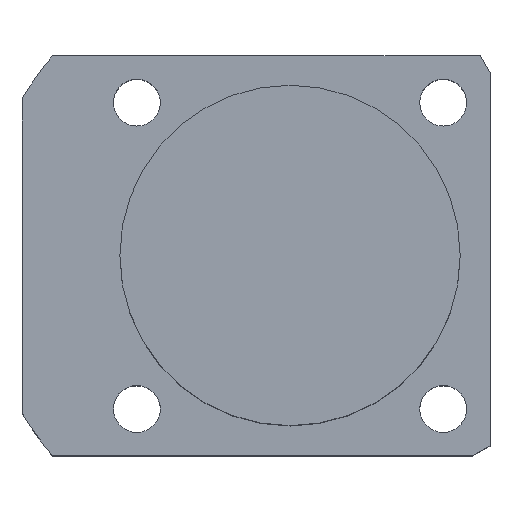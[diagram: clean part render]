
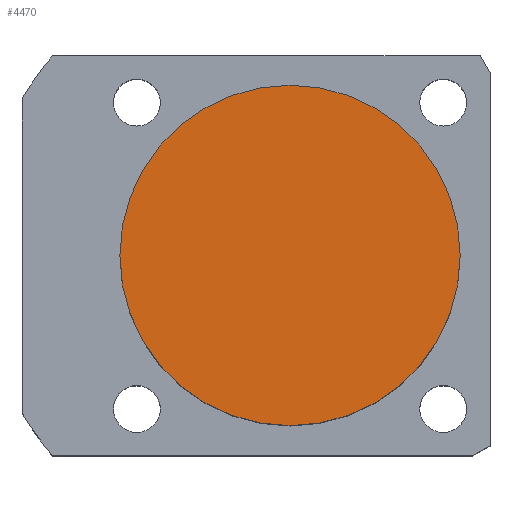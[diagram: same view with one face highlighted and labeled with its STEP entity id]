
A CAD part, top view. The second image highlights one B-rep face of the part: STEP entity #4470.
In plain terms, the highlighted planar face has unit normal (0, 0, 1).
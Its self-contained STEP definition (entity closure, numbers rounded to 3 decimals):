
#34 = FACE_OUTER_BOUND ( 'NONE', #3708, .T. ) ;
#41 = DIRECTION ( 'NONE',  ( 0., 0., 1. ) ) ;
#369 = CARTESIAN_POINT ( 'NONE',  ( 20., 0., 36.5 ) ) ;
#433 = EDGE_CURVE ( 'NONE', #2121, #4414, #1946, .T. ) ;
#576 = AXIS2_PLACEMENT_3D ( 'NONE', #2191, #41, #2542 ) ;
#1156 = DIRECTION ( 'NONE',  ( 1., 0., 0. ) ) ;
#1519 = PLANE ( 'NONE',  #1681 ) ;
#1575 = ORIENTED_EDGE ( 'NONE', *, *, #433, .T. ) ;
#1629 = CIRCLE ( 'NONE', #576, 20. ) ;
#1648 = EDGE_CURVE ( 'NONE', #4414, #2121, #1629, .T. ) ;
#1665 = ORIENTED_EDGE ( 'NONE', *, *, #1648, .T. ) ;
#1681 = AXIS2_PLACEMENT_3D ( 'NONE', #4337, #3271, #1156 ) ;
#1946 = CIRCLE ( 'NONE', #3568, 20. ) ;
#2121 = VERTEX_POINT ( 'NONE', #369 ) ;
#2191 = CARTESIAN_POINT ( 'NONE',  ( 0., 0., 36.5 ) ) ;
#2542 = DIRECTION ( 'NONE',  ( 1., 0., 0. ) ) ;
#2883 = CARTESIAN_POINT ( 'NONE',  ( -20., 0., 36.5 ) ) ;
#3271 = DIRECTION ( 'NONE',  ( 0., 0., 1. ) ) ;
#3568 = AXIS2_PLACEMENT_3D ( 'NONE', #4314, #4094, #4346 ) ;
#3708 = EDGE_LOOP ( 'NONE', ( #1665, #1575 ) ) ;
#4094 = DIRECTION ( 'NONE',  ( 0., 0., 1. ) ) ;
#4314 = CARTESIAN_POINT ( 'NONE',  ( 0., 0., 36.5 ) ) ;
#4337 = CARTESIAN_POINT ( 'NONE',  ( 0., 0., 36.5 ) ) ;
#4346 = DIRECTION ( 'NONE',  ( 1., 0., 0. ) ) ;
#4414 = VERTEX_POINT ( 'NONE', #2883 ) ;
#4470 = ADVANCED_FACE ( 'NONE', ( #34 ), #1519, .T. ) ;
